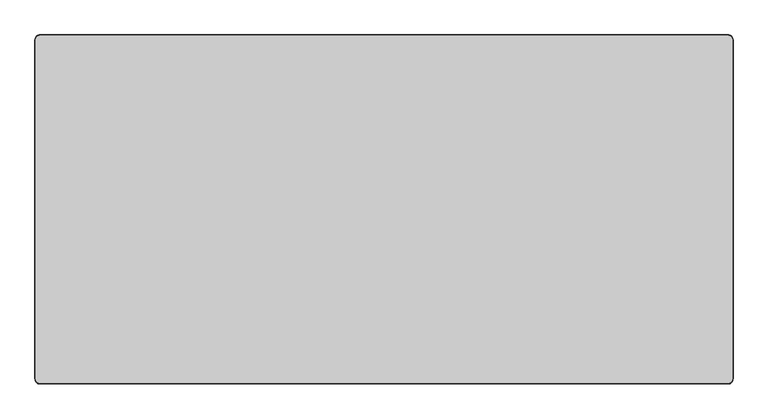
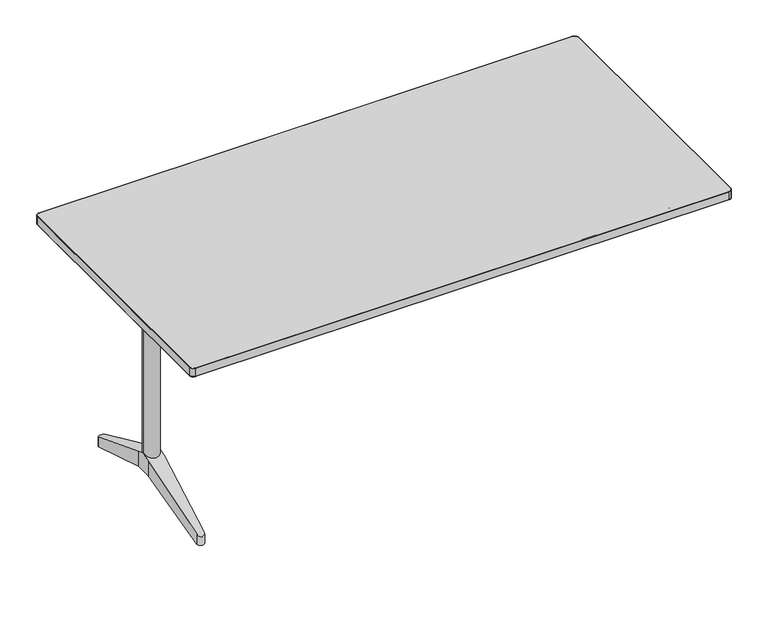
"""IFC4 building model written with IfcOpenShell, lengths in millimetres: furniture geometry."""

from ifc_helpers import new_model, si_unit, point, frame, frame_2d, origin, place, context, project, spatial, polyline, circle_curve, ellipse_curve, trimmed, segment, composite_curve, outline, extrude, faceted_brep, source, transform, mapped, element, save
from ifc_brep_helpers import plane_surface, cylinder_surface, revolved_surface, advanced_brep


def furniture_709e5f32(model_context):
    return source(origin(), model_context, "Body", "SolidModel", [
        advanced_brep(
        [(-632.7657234, 148.4511551, 210.360006), (-632.7657234, 125.9511544, 219.9000124), (-632.7657234, 103.4511538, 210.360006), (-632.7657234, 103.4511538, 165.9000199), (-632.7657234, 125.9511544, 165.9000199), (-632.7657234, 148.4511551, 165.9000199), (-677.7657383, 148.4511551, 165.9000199), (-677.7657383, 125.9511544, 165.9000199), (-677.7657383, 103.4511538, 165.9000199), (-677.7657383, 103.4511538, 210.360006), (-677.7657383, 125.9511544, 219.9000124), (-677.7657383, 148.4511551, 210.360006), (-645.227182, -113.0675149, 88.8098467), (-665.3042073, -113.0675149, 88.8098467), (-645.2821683, -114.0242798, 118.1504308), (-665.2492204, -114.0242831, 118.1504294), (-645.2821683, -114.0242798, 88.8098467), (-665.2492204, -114.0242831, 88.8098467), (-645.227182, 364.9698238, 88.8098467), (-665.3042073, 364.9698238, 88.8098467), (-665.2492204, 365.926592, 88.8098467), (-645.2821683, 365.9265887, 88.8098467), (-645.2821683, 365.9265887, 118.1504308), (-665.2492204, 365.926592, 118.1504294)],
        [
            (0, 1),
            (1, 2),
            (2, 3),
            (3, 4),
            (4, 5),
            (5, 0),
            (6, 7),
            (7, 8),
            (8, 9),
            (9, 10),
            (10, 11),
            (11, 6),
            (3, 8),
            (7, 4),
            (6, 5),
            (12, 13),
            (13, 8),
            (3, 12),
            (14, 2),
            (1, 10),
            (9, 15),
            (15, 14, ellipse_curve(frame((-655.2656945, -113.4505156, 118.3937069), z_axis=(0.0, -0.39036065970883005, 0.9206620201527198), x_axis=(0.0, -0.9206620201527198, -0.3903606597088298)), 10.8617492, 10.0)),
            (12, 16),
            (16, 17, circle_curve(frame((-655.2656945, -113.4505156, 88.8098467), z_axis=(0.0, 0.0, -1.0), x_axis=(1.0, 0.0, 0.0)), 10.0)),
            (17, 13),
            (18, 19),
            (19, 20),
            (20, 21, circle_curve(frame((-655.2656945, 365.3528245, 88.8098467), z_axis=(0.0, 0.0, -1.0), x_axis=(1.0, 0.0, 0.0)), 10.0)),
            (21, 18),
            (0, 22),
            (22, 23, ellipse_curve(frame((-655.2656945, 365.3528245, 118.3937069), z_axis=(0.0, 0.39036065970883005, 0.9206620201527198), x_axis=(0.0, 0.9206620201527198, -0.3903606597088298)), 10.8617492, 10.0)),
            (23, 11),
            (18, 5),
            (6, 19),
            (21, 22),
            (23, 20),
            (14, 16),
            (15, 17),
        ],
        [
            plane_surface(frame((-632.7657234, 148.4511551, 210.360006), z_axis=(1.0, 0.0, 0.0), x_axis=(0.0, -0.9206619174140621, 0.3903609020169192))),
            plane_surface(frame((-677.7657383, 148.4511551, 210.360006), z_axis=(-1.0, 0.0, 0.0), x_axis=(0.0, 0.9206619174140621, -0.3903609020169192))),
            plane_surface(frame((-632.7657234, 103.4511538, 165.9000199), z_axis=(0.0, 0.0, -1.0), x_axis=(-1.0, 0.0, 0.0))),
            plane_surface(frame((-632.7657234, 125.9511544, 165.9000199), z_axis=(0.0, 0.0, -1.0), x_axis=(-1.0, 0.0, 0.0))),
            plane_surface(frame((-632.7657234, -113.0675149, 88.8098467), z_axis=(0.0, 0.33541814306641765, -0.9420693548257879), x_axis=(-1.0, 0.0, 0.0))),
            plane_surface(frame((-632.7657234, 103.4511538, 210.360006), z_axis=(0.0, -0.39036065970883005, 0.9206620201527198), x_axis=(-1.0, 0.0, 0.0))),
            plane_surface(frame((-632.7657234, -124.5346363, 88.8098467), z_axis=(0.0, 0.0, -1.0), x_axis=(-1.0, 0.0, 0.0))),
            plane_surface(frame((-632.7657234, 364.9698238, 88.8098467), z_axis=(0.0, 0.0, -1.0), x_axis=(-1.0, 0.0, 0.0))),
            plane_surface(frame((-632.7657234, 376.4369452, 113.6940401), z_axis=(0.0, 0.39036065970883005, 0.9206620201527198), x_axis=(-1.0, 0.0, 0.0))),
            plane_surface(frame((-632.7657234, 148.4511551, 165.9000199), z_axis=(0.0, -0.33541814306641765, -0.9420693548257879), x_axis=(-1.0, 0.0, 0.0))),
            plane_surface(frame((-645.2821683, 365.9265887, 234.8098558), z_axis=(0.9983526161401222, 0.0573764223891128, 0.0), x_axis=(0.0, 0.0, -1.0))),
            plane_surface(frame((-677.7478455, 148.4511551, 234.8098558), z_axis=(-0.9983525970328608, 0.0573767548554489, 0.0), x_axis=(0.0, 0.0, -1.0))),
            cylinder_surface(frame((-655.2656945, 365.3528245, 75.8098498), z_axis=(0.0, 0.0, -1.0), x_axis=(1.0, 0.0, 0.0)), 10.0),
            plane_surface(frame((-632.7836161, 103.4511538, 234.8098558), z_axis=(0.9983526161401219, -0.05737642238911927, 0.0), x_axis=(0.0, 0.0, -1.0))),
            cylinder_surface(frame((-655.2656945, -113.4505156, -14.1901527), z_axis=(0.0, 0.0, -1.0), x_axis=(1.0, 0.0, 0.0)), 10.0),
            plane_surface(frame((-665.2492204, -114.0242831, 234.8098558), z_axis=(-0.9983525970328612, -0.05737675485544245, 0.0), x_axis=(0.0, 0.0, -1.0))),
        ],
        [
            (0, [[1, 2, 3, 4, 5, 6]]),
            (1, [[7, 8, 9, 10, 11, 12]]),
            (2, [[-4, 13, -8, 14]]),
            (3, [[-5, -14, -7, 15]]),
            (4, [[16, 17, -13, 18]]),
            (5, [[19, -2, 20, -10, 21, 22]]),
            (6, [[-16, 23, 24, 25]]),
            (7, [[26, 27, 28, 29]]),
            (8, [[30, 31, 32, -11, -20, -1]]),
            (9, [[-26, 33, -15, 34]]),
            (10, [[35, -30, -6, -33, -29]]),
            (11, [[36, -27, -34, -12, -32]]),
            (12, [[-35, -28, -36, -31]]),
            (13, [[37, -23, -18, -3, -19]]),
            (14, [[-37, -22, 38, -24]]),
            (15, [[-38, -21, -9, -17, -25]]),
        ],
    ),
        extrude(outline(composite_curve([segment(trimmed(circle_curve(frame_2d((-655.2657309, 125.9511544)), 22.0), [point((-677.2657309, 125.9511544))], [point((-633.2657309, 125.9511544))], False, "CARTESIAN"), True, "CONTINUOUS"), segment(trimmed(circle_curve(frame_2d((-655.2657309, 125.9511544)), 22.0), [point((-633.2657309, 125.9511544))], [point((-677.2657309, 125.9511544))], False, "CARTESIAN"), True, "CONTINUOUS")], self_intersect=False)), frame((0.0, 0.0, 165.9000199), z_axis=(0.0, 0.0, 1.0), x_axis=(1.0, 0.0, 0.0)), (0.0, 0.0, 1.0), 509.3499944),
        extrude(outline(polyline([(-687.0000109, 403.9511544), (-627.0000395, 403.9511544), (-627.0000395, -152.0488456), (-687.0000109, -152.0488456), (-687.0000109, 403.9511544)]), holes=[polyline([(-629.0000628, 65.9511581), (-629.0000628, 175.9511571), (-684.9999876, 175.9511571), (-684.9999876, 65.9511581), (-629.0000628, 65.9511581)])]), frame((0.0, 0.0, 684.9999762), z_axis=(0.0, 0.0, 1.0), x_axis=(1.0, 0.0, 0.0)), (0.0, 0.0, 1.0), 20.2500238),
        faceted_brep([(687.0000109, 175.9511571, 705.25), (684.9999876, 175.9511571, 705.25), (684.9999876, 65.9511581, 705.25), (687.0000109, 65.9511581, 705.25), (687.0000109, 175.9511571, 684.9999762), (687.0000109, 65.9511581, 684.9999762), (684.9999876, 65.9511581, 684.9999762), (684.9999876, 175.9511571, 684.9999762), (687.0000109, 65.9511581, 705.0), (687.0000109, -152.0488456, 705.0), (687.0000109, -152.0488456, 685.2499762), (687.0000109, 65.9511581, 685.2499762), (687.0000109, 175.9511571, 685.2499762), (687.0000109, 403.9511544, 685.2499762), (687.0000109, 403.9511544, 705.0), (687.0000109, 175.9511571, 705.0), (684.9999876, 65.9511581, 705.0), (684.9999876, 65.9511581, 685.2499762), (684.9999876, 175.9511571, 705.0), (684.9999876, 175.9511571, 685.2499762), (627.0000395, 403.9511544, 705.0), (627.0000395, 175.9511571, 705.0), (629.0000628, 175.9511571, 705.0), (627.0000395, 65.9511581, 705.0), (627.0000395, -152.0488456, 705.0), (629.0000628, 65.9511581, 705.0), (627.0000395, -152.0488456, 685.2499762), (627.0000395, 65.9511581, 685.2499762), (629.0000628, 65.9511581, 685.2499762), (627.0000395, 175.9511571, 685.2499762), (627.0000395, 403.9511544, 685.2499762), (629.0000628, 175.9511571, 685.2499762), (627.0000395, 175.9511571, 684.9999762), (627.0000395, 65.9511581, 684.9999762), (627.0000395, 65.9511581, 705.25), (627.0000395, 175.9511571, 705.25), (629.0000628, 65.9511581, 705.25), (629.0000628, 175.9511571, 705.25), (629.0000628, 175.9511571, 684.9999762), (629.0000628, 65.9511581, 684.9999762)], [[[0, 1, 2, 3]], [[4, 5, 6, 7]], [[0, 3, 8, 9, 10, 11, 5, 4, 12, 13, 14, 15]], [[3, 2, 16, 8]], [[6, 5, 11, 17]], [[1, 0, 15, 18]], [[4, 7, 19, 12]], [[2, 1, 18, 19, 7, 6, 17, 16]], [[15, 14, 20, 21, 22, 18]], [[23, 24, 9, 8, 16, 25]], [[11, 10, 26, 27, 28, 17]], [[29, 30, 13, 12, 19, 31]], [[20, 14, 13, 30]], [[21, 20, 30, 29, 32, 33, 27, 26, 24, 23, 34, 35]], [[9, 24, 26, 10]], [[16, 17, 28, 25]], [[19, 18, 22, 31]], [[35, 34, 36, 37]], [[32, 38, 39, 33]], [[36, 34, 23, 25]], [[33, 39, 28, 27]], [[35, 37, 22, 21]], [[38, 32, 29, 31]], [[37, 36, 25, 28, 39, 38, 31, 22]]]),
        extrude(outline(polyline([(-632.7657234, 75.9511563), (-677.7657383, 75.9511563), (-677.7657383, 155.951156), (-632.7657234, 155.951156), (-632.7657234, 75.9511563)])), frame((0.0, 0.0, 675.2500143), z_axis=(0.0, 0.0, 1.0), x_axis=(1.0, 0.0, 0.0)), (0.0, 0.0, 1.0), 29.9999857),
        extrude(outline(polyline([(632.7657234, 75.9511563), (632.7657234, 155.951156), (677.7657383, 155.951156), (677.7657383, 75.9511563), (632.7657234, 75.9511563)])), frame((0.0, 0.0, 675.2500143), z_axis=(0.0, 0.0, 1.0), x_axis=(1.0, 0.0, 0.0)), (0.0, 0.0, 1.0), 29.9999857),
        extrude(outline(composite_curve([segment(trimmed(circle_curve(frame_2d((-655.2657309, 125.9511544)), 22.0), [point((-641.9334407, 108.4511533))], [point((-641.9334407, 143.4511556))], True, "CARTESIAN"), True, "CONTINUOUS"), segment(polyline([(-641.9334407, 143.4511556), (641.9334407, 143.4511556)]), True, "CONTINUOUS"), segment(trimmed(circle_curve(frame_2d((655.2657309, 125.9511544)), 22.0), [point((641.9334407, 143.4511556))], [point((641.9334407, 108.4511533))], True, "CARTESIAN"), True, "CONTINUOUS"), segment(polyline([(641.9334407, 108.4511533), (-641.9334407, 108.4511533)]), True, "CONTINUOUS")], self_intersect=False)), frame((0.0, 0.0, 625.2500143), z_axis=(0.0, 0.0, 1.0), x_axis=(1.0, 0.0, 0.0)), (0.0, 0.0, 1.0), 50.0),
        advanced_brep(
        [(-627.0000395, -175.0488456, 676.6414874), (-627.0000395, -175.0488456, 696.6414874), (627.0000395, -175.0488456, 676.6414874), (627.0000395, -175.0488456, 696.6414874), (-619.9107653, -175.0488456, 676.6414874), (-618.463829, -175.0488456, 696.6414874), (-564.9107794, -175.0488456, 668.641467), (-563.4638431, -175.0488456, 688.641467), (564.910768, -175.0488456, 668.641467), (563.4638316, -175.0488456, 688.641467), (619.9107539, -175.0488456, 676.6414874), (618.4638175, -175.0488456, 696.6414874)],
        [
            (0, 1, circle_curve(frame((-627.0000395, -175.0488456, 686.6414874), z_axis=(-1.0, 0.0, 0.0), x_axis=(0.0, 0.0, 1.0)), 10.0)),
            (1, 0, circle_curve(frame((-627.0000395, -175.0488456, 686.6414874), z_axis=(-1.0, 0.0, 0.0), x_axis=(0.0, 0.0, 1.0)), 10.0)),
            (2, 3, circle_curve(frame((627.0000395, -175.0488456, 686.6414874), z_axis=(1.0, 0.0, 0.0), x_axis=(0.0, 0.0, 1.0)), 10.0)),
            (3, 2, circle_curve(frame((627.0000395, -175.0488456, 686.6414874), z_axis=(1.0, 0.0, 0.0), x_axis=(0.0, 0.0, 1.0)), 10.0)),
            (0, 4),
            (4, 5, ellipse_curve(frame((-619.1872971, -175.0488456, 686.6414874), z_axis=(-0.9973931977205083, 0.0, 0.07215822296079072), x_axis=(-0.07215822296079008, 0.0, -0.9973931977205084)), 10.0261362, 10.0)),
            (5, 1),
            (5, 4, ellipse_curve(frame((-619.1872971, -175.0488456, 686.6414874), z_axis=(-0.9973931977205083, 0.0, 0.07215822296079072), x_axis=(-0.07215822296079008, 0.0, -0.9973931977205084)), 10.0261362, 10.0)),
            (4, 6),
            (6, 7, ellipse_curve(frame((-564.1873113, -175.0488456, 678.641467), z_axis=(-0.9973931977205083, 0.0, 0.07215822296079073), x_axis=(0.07215822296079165, 0.0, 0.9973931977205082)), 10.0261362, 10.0)),
            (7, 5),
            (7, 6, ellipse_curve(frame((-564.1873113, -175.0488456, 678.641467), z_axis=(-0.9973931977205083, 0.0, 0.07215822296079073), x_axis=(0.07215822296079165, 0.0, 0.9973931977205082)), 10.0261362, 10.0)),
            (6, 8),
            (8, 9, ellipse_curve(frame((564.1872998, -175.0488456, 678.641467), z_axis=(-0.9973931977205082, 0.0, -0.07215822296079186), x_axis=(-0.07215822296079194, 0.0, 0.9973931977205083)), 10.0261362, 10.0)),
            (9, 7),
            (9, 8, ellipse_curve(frame((564.1872998, -175.0488456, 678.641467), z_axis=(-0.9973931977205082, 0.0, -0.07215822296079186), x_axis=(-0.07215822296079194, 0.0, 0.9973931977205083)), 10.0261362, 10.0)),
            (8, 10),
            (10, 11, ellipse_curve(frame((619.1872857, -175.0488456, 686.6414874), z_axis=(-0.9973931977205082, 0.0, -0.07215822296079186), x_axis=(0.07215822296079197, 0.0, -0.9973931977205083)), 10.0261362, 10.0)),
            (11, 9),
            (11, 10, ellipse_curve(frame((619.1872857, -175.0488456, 686.6414874), z_axis=(-0.9973931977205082, 0.0, -0.07215822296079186), x_axis=(0.07215822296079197, 0.0, -0.9973931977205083)), 10.0261362, 10.0)),
            (10, 2),
            (3, 11),
        ],
        [
            plane_surface(frame((-627.0000395, -152.0488456, 716.8750406), z_axis=(-1.0, 0.0, 0.0), x_axis=(0.0, -1.0, 0.0))),
            plane_surface(frame((627.0000395, -152.0488456, 716.8750406), z_axis=(1.0, 0.0, 0.0), x_axis=(0.0, -1.0, 0.0))),
            cylinder_surface(frame((-627.0000395, -175.0488456, 686.6414874), z_axis=(-1.0, 0.0, 0.0), x_axis=(0.0, 0.0, 1.0)), 10.0),
            cylinder_surface(frame((-621.3518208, -175.0488456, 686.9563281), z_axis=(-0.9895863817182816, 0.0, 0.14394024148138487), x_axis=(0.14394024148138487, 0.0, 0.9895863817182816)), 10.0),
            cylinder_surface(frame((-562.0000099, -175.0488456, 678.641467), z_axis=(-1.0, 0.0, 0.0), x_axis=(0.0, 0.0, 1.0)), 10.0),
            cylinder_surface(frame((566.3518234, -175.0488456, 678.9563077), z_axis=(-0.9895863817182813, 0.0, -0.1439402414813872), x_axis=(-0.1439402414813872, 0.0, 0.9895863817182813)), 10.0),
            cylinder_surface(frame((616.9999844, -175.0488456, 686.6414874), z_axis=(-1.0, 0.0, 0.0), x_axis=(0.0, 0.0, 1.0)), 10.0),
        ],
        [
            (0, [[1, 2]]),
            (1, [[3, 4]]),
            (2, [[-1, 5, 6, 7]]),
            (2, [[-2, -7, 8, -5]]),
            (3, [[-6, 9, 10, 11]]),
            (3, [[-8, -11, 12, -9]]),
            (4, [[-10, 13, 14, 15]]),
            (4, [[-12, -15, 16, -13]]),
            (5, [[-14, 17, 18, 19]]),
            (5, [[-16, -19, 20, -17]]),
            (6, [[-18, 21, -4, 22]]),
            (6, [[-20, -22, -3, -21]]),
        ],
    ),
        extrude(outline(composite_curve([segment(trimmed(circle_curve(frame_2d((-752.0, 496.9511544)), 10.0), [point((-762.0, 496.9511544))], [point((-752.0, 506.9511544))], False, "CARTESIAN"), True, "CONTINUOUS"), segment(polyline([(-752.0, 506.9511544), (752.0, 506.9511544)]), True, "CONTINUOUS"), segment(trimmed(circle_curve(frame_2d((752.0, 496.9511544)), 10.0), [point((752.0, 506.9511544))], [point((762.0, 496.9511544))], False, "CARTESIAN"), True, "CONTINUOUS"), segment(polyline([(762.0, 496.9511544), (762.0, -245.0488456)]), True, "CONTINUOUS"), segment(trimmed(circle_curve(frame_2d((752.0, -245.0488456)), 10.0), [point((762.0, -245.0488456))], [point((752.0, -255.0488456))], False, "CARTESIAN"), True, "CONTINUOUS"), segment(polyline([(752.0, -255.0488456), (-752.0, -255.0488456)]), True, "CONTINUOUS"), segment(trimmed(circle_curve(frame_2d((-752.0, -245.0488456)), 10.0), [point((-752.0, -255.0488456))], [point((-762.0, -245.0488456))], False, "CARTESIAN"), True, "CONTINUOUS"), segment(polyline([(-762.0, -245.0488456), (-762.0, 496.9511544)]), True, "CONTINUOUS")], self_intersect=False)), frame((0.0, 0.0, 705.25), z_axis=(0.0, 0.0, 1.0), x_axis=(1.0, 0.0, 0.0)), (0.0, 0.0, 1.0), 25.0),
        advanced_brep(
        [(762.0, -245.0488456, 705.25), (752.0, -255.0488456, 705.25), (752.0, -255.0488456, 730.25), (762.0, -245.0488456, 730.25), (762.0, 496.9511544, 730.25), (762.0, 496.9511544, 705.25), (752.0, 506.9511544, 705.25), (752.0, 506.9511544, 730.25), (-752.0, 506.9511544, 730.25), (-752.0, 506.9511544, 705.25), (-762.0, 496.9511544, 705.25), (-762.0, 496.9511544, 730.25), (-762.0, -245.0488456, 730.25), (-762.0, -245.0488456, 705.25), (-752.0, -255.0488456, 705.25), (-752.0, -255.0488456, 730.25), (763.0, -245.0488456, 706.25), (752.0, -256.0488456, 706.25), (763.0, -245.0488456, 729.25), (752.0, -256.0488456, 729.25), (763.0, 496.9511544, 706.25), (763.0, 496.9511544, 729.25), (752.0, 507.9511544, 706.25), (752.0, 507.9511544, 729.25), (-752.0, 507.9511544, 706.25), (-752.0, 507.9511544, 729.25), (-763.0, 496.9511544, 706.25), (-763.0, 496.9511544, 729.25), (-763.0, -245.0488456, 706.25), (-763.0, -245.0488456, 729.25), (-752.0, -256.0488456, 706.25), (-752.0, -256.0488456, 729.25)],
        [
            (0, 1, circle_curve(frame((752.0, -245.0488456, 705.25), z_axis=(0.0, 0.0, -1.0), x_axis=(0.0, -1.0, 0.0)), 10.0)),
            (1, 2),
            (2, 3, circle_curve(frame((752.0, -245.0488456, 730.25), z_axis=(0.0, 0.0, 1.0), x_axis=(0.0, -1.0, 0.0)), 10.0)),
            (3, 0),
            (3, 4),
            (4, 5),
            (5, 0),
            (6, 5, circle_curve(frame((752.0, 496.9511544, 705.25), z_axis=(0.0, 0.0, -1.0), x_axis=(1.0, 0.0, 0.0)), 10.0)),
            (4, 7, circle_curve(frame((752.0, 496.9511544, 730.25), z_axis=(0.0, 0.0, 1.0), x_axis=(1.0, 0.0, 0.0)), 10.0)),
            (7, 6),
            (7, 8),
            (8, 9),
            (9, 6),
            (10, 9, circle_curve(frame((-752.0, 496.9511544, 705.25), z_axis=(0.0, 0.0, -1.0), x_axis=(0.0, 1.0, 0.0)), 10.0)),
            (8, 11, circle_curve(frame((-752.0, 496.9511544, 730.25), z_axis=(0.0, 0.0, 1.0), x_axis=(0.0, 1.0, 0.0)), 10.0)),
            (11, 10),
            (11, 12),
            (12, 13),
            (13, 10),
            (14, 13, circle_curve(frame((-752.0, -245.0488456, 705.25), z_axis=(0.0, 0.0, -1.0), x_axis=(-1.0, 0.0, 0.0)), 10.0)),
            (12, 15, circle_curve(frame((-752.0, -245.0488456, 730.25), z_axis=(0.0, 0.0, 1.0), x_axis=(-1.0, 0.0, 0.0)), 10.0)),
            (15, 14),
            (15, 2),
            (1, 14),
            (16, 17, circle_curve(frame((752.0, -245.0488456, 706.25), z_axis=(0.0, 0.0, -1.0), x_axis=(0.0, -1.0, 0.0)), 11.0)),
            (17, 1, circle_curve(frame((752.0, -255.0488456, 706.25), z_axis=(1.0, 0.0, 0.0), x_axis=(0.0, 1.0, 0.0)), 1.0)),
            (0, 16, circle_curve(frame((762.0, -245.0488456, 706.25), z_axis=(0.0, -1.0, 0.0), x_axis=(-1.0, 0.0, 0.0)), 1.0)),
            (18, 19, circle_curve(frame((752.0, -245.0488456, 729.25), z_axis=(0.0, 0.0, -1.0), x_axis=(0.0, -1.0, 0.0)), 11.0)),
            (19, 17),
            (16, 18),
            (2, 19, circle_curve(frame((752.0, -255.0488456, 729.25), z_axis=(1.0, 0.0, 0.0), x_axis=(0.0, 1.0, 0.0)), 1.0)),
            (18, 3, circle_curve(frame((762.0, -245.0488456, 729.25), z_axis=(0.0, -1.0, 0.0), x_axis=(-1.0, 0.0, 0.0)), 1.0)),
            (5, 20, circle_curve(frame((762.0, 496.9511544, 706.25), z_axis=(0.0, -1.0, 0.0), x_axis=(-1.0, 0.0, 0.0)), 1.0)),
            (20, 16),
            (20, 21),
            (21, 18),
            (21, 4, circle_curve(frame((762.0, 496.9511544, 729.25), z_axis=(0.0, -1.0, 0.0), x_axis=(-1.0, 0.0, 0.0)), 1.0)),
            (22, 20, circle_curve(frame((752.0, 496.9511544, 706.25), z_axis=(0.0, 0.0, -1.0), x_axis=(1.0, 0.0, 0.0)), 11.0)),
            (6, 22, circle_curve(frame((752.0, 506.9511544, 706.25), z_axis=(1.0, 0.0, 0.0), x_axis=(0.0, -1.0, 0.0)), 1.0)),
            (23, 21, circle_curve(frame((752.0, 496.9511544, 729.25), z_axis=(0.0, 0.0, -1.0), x_axis=(1.0, 0.0, 0.0)), 11.0)),
            (22, 23),
            (23, 7, circle_curve(frame((752.0, 506.9511544, 729.25), z_axis=(1.0, 0.0, 0.0), x_axis=(0.0, -1.0, 0.0)), 1.0)),
            (9, 24, circle_curve(frame((-752.0, 506.9511544, 706.25), z_axis=(1.0, 0.0, 0.0), x_axis=(0.0, -1.0, 0.0)), 1.0)),
            (24, 22),
            (24, 25),
            (25, 23),
            (25, 8, circle_curve(frame((-752.0, 506.9511544, 729.25), z_axis=(1.0, 0.0, 0.0), x_axis=(0.0, -1.0, 0.0)), 1.0)),
            (26, 24, circle_curve(frame((-752.0, 496.9511544, 706.25), z_axis=(0.0, 0.0, -1.0), x_axis=(0.0, 1.0, 0.0)), 11.0)),
            (10, 26, circle_curve(frame((-762.0, 496.9511544, 706.25), z_axis=(0.0, 1.0, 0.0), x_axis=(1.0, 0.0, 0.0)), 1.0)),
            (27, 25, circle_curve(frame((-752.0, 496.9511544, 729.25), z_axis=(0.0, 0.0, -1.0), x_axis=(0.0, 1.0, 0.0)), 11.0)),
            (26, 27),
            (27, 11, circle_curve(frame((-762.0, 496.9511544, 729.25), z_axis=(0.0, 1.0, 0.0), x_axis=(1.0, 0.0, 0.0)), 1.0)),
            (13, 28, circle_curve(frame((-762.0, -245.0488456, 706.25), z_axis=(0.0, 1.0, 0.0), x_axis=(1.0, 0.0, 0.0)), 1.0)),
            (28, 26),
            (28, 29),
            (29, 27),
            (29, 12, circle_curve(frame((-762.0, -245.0488456, 729.25), z_axis=(0.0, 1.0, 0.0), x_axis=(1.0, 0.0, 0.0)), 1.0)),
            (30, 28, circle_curve(frame((-752.0, -245.0488456, 706.25), z_axis=(0.0, 0.0, -1.0), x_axis=(-1.0, 0.0, 0.0)), 11.0)),
            (14, 30, circle_curve(frame((-752.0, -255.0488456, 706.25), z_axis=(-1.0, 0.0, 0.0), x_axis=(0.0, 1.0, 0.0)), 1.0)),
            (31, 29, circle_curve(frame((-752.0, -245.0488456, 729.25), z_axis=(0.0, 0.0, -1.0), x_axis=(-1.0, 0.0, 0.0)), 11.0)),
            (30, 31),
            (31, 15, circle_curve(frame((-752.0, -255.0488456, 729.25), z_axis=(-1.0, 0.0, 0.0), x_axis=(0.0, 1.0, 0.0)), 1.0)),
            (17, 30),
            (19, 31),
        ],
        [
            revolved_surface(polyline([(752.0, -255.0488456, 730.25), (752.0, -255.0488456, 705.25)]), (752.0, -245.0488456, 730.25), (0.0, 0.0, 1.0)),
            plane_surface(frame((762.0, -245.0488456, 730.25), z_axis=(-1.0, 0.0, 0.0), x_axis=(0.0, 1.0, 0.0))),
            revolved_surface(polyline([(762.0, 496.9511544, 730.25), (762.0, 496.9511544, 705.25)]), (752.0, 496.9511544, 730.25), (0.0, 0.0, 1.0)),
            plane_surface(frame((752.0, 506.9511544, 730.25), z_axis=(0.0, -1.0, 0.0), x_axis=(-1.0, 0.0, 0.0))),
            revolved_surface(polyline([(-752.0, 506.9511544, 730.25), (-752.0, 506.9511544, 705.25)]), (-752.0, 496.9511544, 730.25), (0.0, 0.0, 1.0)),
            plane_surface(frame((-762.0, 496.9511544, 730.25), z_axis=(1.0, 0.0, 0.0), x_axis=(0.0, -1.0, 0.0))),
            revolved_surface(polyline([(-762.0, -245.0488456, 730.25), (-762.0, -245.0488456, 705.25)]), (-752.0, -245.0488456, 730.25), (0.0, 0.0, 1.0)),
            plane_surface(frame((-752.0, -255.0488456, 730.25), z_axis=(0.0, 1.0, 0.0), x_axis=(1.0, 0.0, 0.0))),
            revolved_surface(trimmed(ellipse_curve(frame((752.0, -255.0488456, 706.25), z_axis=(-1.0, 0.0, 0.0), x_axis=(0.0, 1.0, 0.0)), 1.0, 1.0), [point((752.0, -255.0488456, 705.25))], [point((752.0, -256.0488456, 706.25))], True, "CARTESIAN"), (752.0, -245.0488456, 730.25), (0.0, 0.0, 1.0)),
            cylinder_surface(frame((752.0, -245.0488456, 730.25), z_axis=(0.0, 0.0, 1.0), x_axis=(0.0, -1.0, 0.0)), 11.0),
            revolved_surface(trimmed(ellipse_curve(frame((752.0, -255.0488456, 729.25), z_axis=(-1.0, 0.0, 0.0), x_axis=(0.0, 1.0, 0.0)), 1.0, 1.0), [point((752.0, -256.0488456, 729.25))], [point((752.0, -255.0488456, 730.25))], True, "CARTESIAN"), (752.0, -245.0488456, 730.25), (0.0, 0.0, 1.0)),
            cylinder_surface(frame((762.0, -245.0488456, 706.25), z_axis=(0.0, -1.0, 0.0), x_axis=(-1.0, 0.0, 0.0)), 1.0),
            plane_surface(frame((763.0, -245.0488456, 706.25), z_axis=(1.0, 0.0, 0.0), x_axis=(0.0, 1.0, 0.0))),
            cylinder_surface(frame((762.0, -245.0488456, 729.25), z_axis=(0.0, -1.0, 0.0), x_axis=(-1.0, 0.0, 0.0)), 1.0),
            revolved_surface(trimmed(ellipse_curve(frame((762.0, 496.9511544, 706.25), z_axis=(0.0, -1.0, 0.0), x_axis=(-1.0, 0.0, 0.0)), 1.0, 1.0), [point((762.0, 496.9511544, 705.25))], [point((763.0, 496.9511544, 706.25))], True, "CARTESIAN"), (752.0, 496.9511544, 730.25), (0.0, 0.0, 1.0)),
            cylinder_surface(frame((752.0, 496.9511544, 730.25), z_axis=(0.0, 0.0, 1.0), x_axis=(1.0, 0.0, 0.0)), 11.0),
            revolved_surface(trimmed(ellipse_curve(frame((762.0, 496.9511544, 729.25), z_axis=(0.0, -1.0, 0.0), x_axis=(-1.0, 0.0, 0.0)), 1.0, 1.0), [point((763.0, 496.9511544, 729.25))], [point((762.0, 496.9511544, 730.25))], True, "CARTESIAN"), (752.0, 496.9511544, 730.25), (0.0, 0.0, 1.0)),
            cylinder_surface(frame((752.0, 506.9511544, 706.25), z_axis=(1.0, 0.0, 0.0), x_axis=(0.0, -1.0, 0.0)), 1.0),
            plane_surface(frame((752.0, 507.9511544, 706.25), z_axis=(0.0, 1.0, 0.0), x_axis=(-1.0, 0.0, 0.0))),
            cylinder_surface(frame((752.0, 506.9511544, 729.25), z_axis=(1.0, 0.0, 0.0), x_axis=(0.0, -1.0, 0.0)), 1.0),
            revolved_surface(trimmed(ellipse_curve(frame((-752.0, 506.9511544, 706.25), z_axis=(1.0, 0.0, 0.0), x_axis=(0.0, -1.0, 0.0)), 1.0, 1.0), [point((-752.0, 506.9511544, 705.25))], [point((-752.0, 507.9511544, 706.25))], True, "CARTESIAN"), (-752.0, 496.9511544, 730.25), (0.0, 0.0, 1.0)),
            cylinder_surface(frame((-752.0, 496.9511544, 730.25), z_axis=(0.0, 0.0, 1.0), x_axis=(0.0, 1.0, 0.0)), 11.0),
            revolved_surface(trimmed(ellipse_curve(frame((-752.0, 506.9511544, 729.25), z_axis=(1.0, 0.0, 0.0), x_axis=(0.0, -1.0, 0.0)), 1.0, 1.0), [point((-752.0, 507.9511544, 729.25))], [point((-752.0, 506.9511544, 730.25))], True, "CARTESIAN"), (-752.0, 496.9511544, 730.25), (0.0, 0.0, 1.0)),
            cylinder_surface(frame((-762.0, 496.9511544, 706.25), z_axis=(0.0, 1.0, 0.0), x_axis=(1.0, 0.0, 0.0)), 1.0),
            plane_surface(frame((-763.0, 496.9511544, 706.25), z_axis=(-1.0, 0.0, 0.0), x_axis=(0.0, -1.0, 0.0))),
            cylinder_surface(frame((-762.0, 496.9511544, 729.25), z_axis=(0.0, 1.0, 0.0), x_axis=(1.0, 0.0, 0.0)), 1.0),
            revolved_surface(trimmed(ellipse_curve(frame((-762.0, -245.0488456, 706.25), z_axis=(0.0, 1.0, 0.0), x_axis=(1.0, 0.0, 0.0)), 1.0, 1.0), [point((-762.0, -245.0488456, 705.25))], [point((-763.0, -245.0488456, 706.25))], True, "CARTESIAN"), (-752.0, -245.0488456, 730.25), (0.0, 0.0, 1.0)),
            cylinder_surface(frame((-752.0, -245.0488456, 730.25), z_axis=(0.0, 0.0, 1.0), x_axis=(-1.0, 0.0, 0.0)), 11.0),
            revolved_surface(trimmed(ellipse_curve(frame((-762.0, -245.0488456, 729.25), z_axis=(0.0, 1.0, 0.0), x_axis=(1.0, 0.0, 0.0)), 1.0, 1.0), [point((-763.0, -245.0488456, 729.25))], [point((-762.0, -245.0488456, 730.25))], True, "CARTESIAN"), (-752.0, -245.0488456, 730.25), (0.0, 0.0, 1.0)),
            cylinder_surface(frame((-752.0, -255.0488456, 706.25), z_axis=(-1.0, 0.0, 0.0), x_axis=(0.0, 1.0, 0.0)), 1.0),
            plane_surface(frame((-752.0, -256.0488456, 706.25), z_axis=(0.0, -1.0, 0.0), x_axis=(1.0, 0.0, 0.0))),
            cylinder_surface(frame((-752.0, -255.0488456, 729.25), z_axis=(-1.0, 0.0, 0.0), x_axis=(0.0, 1.0, 0.0)), 1.0),
        ],
        [
            (0, [[1, 2, 3, 4]]),
            (1, [[-4, 5, 6, 7]]),
            (2, [[8, -6, 9, 10]]),
            (3, [[-10, 11, 12, 13]]),
            (4, [[14, -12, 15, 16]]),
            (5, [[-16, 17, 18, 19]]),
            (6, [[20, -18, 21, 22]]),
            (7, [[-22, 23, -2, 24]]),
            (8, [[25, 26, -1, 27]]),
            (9, [[28, 29, -25, 30]]),
            (10, [[-3, 31, -28, 32]]),
            (11, [[-27, -7, 33, 34]]),
            (12, [[-30, -34, 35, 36]]),
            (13, [[-32, -36, 37, -5]]),
            (14, [[38, -33, -8, 39]]),
            (15, [[40, -35, -38, 41]]),
            (16, [[-9, -37, -40, 42]]),
            (17, [[-39, -13, 43, 44]]),
            (18, [[-41, -44, 45, 46]]),
            (19, [[-42, -46, 47, -11]]),
            (20, [[48, -43, -14, 49]]),
            (21, [[50, -45, -48, 51]]),
            (22, [[-15, -47, -50, 52]]),
            (23, [[-49, -19, 53, 54]]),
            (24, [[-51, -54, 55, 56]]),
            (25, [[-52, -56, 57, -17]]),
            (26, [[58, -53, -20, 59]]),
            (27, [[60, -55, -58, 61]]),
            (28, [[-21, -57, -60, 62]]),
            (29, [[-59, -24, -26, 63]]),
            (30, [[-61, -63, -29, 64]]),
            (31, [[-62, -64, -31, -23]]),
        ],
    ),
    ])


if __name__ == "__main__":
    model = new_model("IFC4")
    model_context = context("Model", 3, world=origin())
    ifc_project = project(units=[si_unit("LENGTHUNIT", "METRE", prefix="MILLI")], contexts=[model_context])
    site = spatial("IfcSite", under=ifc_project)
    building = spatial("IfcBuilding", under=site)
    placement = place(None, origin())
    furniture_shape = furniture_709e5f32(model_context)
    element("IfcFurniture", 1, ObjectType="Furniture_Wilkhahn_Timetable_612-51_Smart : 30\"W x 60\"L", at=placement, inside=building, context=model_context, shape_type="MappedRepresentation", body=[
        mapped(furniture_shape, transform((0.0, 0.0, 0.0), x_axis=(1.0, 0.0, 0.0), y_axis=(0.0, 1.0, 0.0), z_axis=(0.0, 0.0, 1.0))),
    ])
    save(model, "model.ifc")
